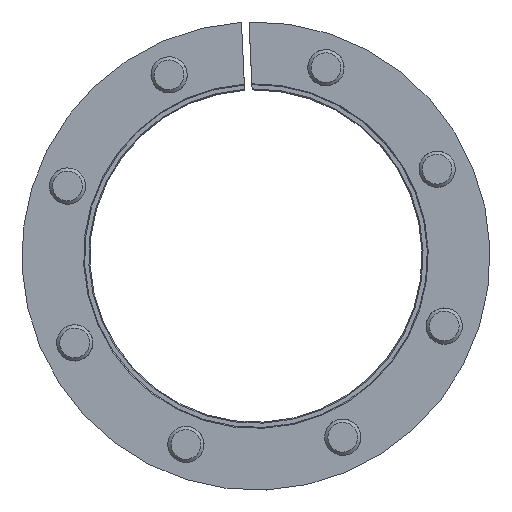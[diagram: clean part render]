
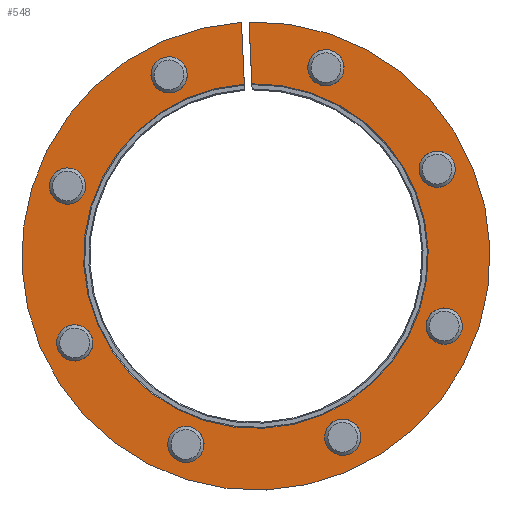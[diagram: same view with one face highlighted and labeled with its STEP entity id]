
A CAD part, left-side view. The second image highlights one B-rep face of the part: STEP entity #548.
In plain terms, the highlighted planar face has unit normal (-1, 0, 0) as drawn and (1, 0, 0) by its records, which use the part's own axes.
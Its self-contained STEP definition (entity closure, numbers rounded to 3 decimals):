
#123=CARTESIAN_POINT('',(26.,51.516,55.214));
#124=VERTEX_POINT('',#123);
#125=CARTESIAN_POINT('',(26.,51.516,61.214));
#126=DIRECTION('',(-1.0,0.0,0.0));
#127=DIRECTION('',(0.0,0.0,1.0));
#128=AXIS2_PLACEMENT_3D('',#125,#126,#127);
#129=CIRCLE('',#128,6.);
#130=EDGE_CURVE('',#124,#124,#129,.T.);
#151=CARTESIAN_POINT('',(26.,16.286,-31.984));
#152=VERTEX_POINT('',#151);
#153=CARTESIAN_POINT('',(26.,16.286,-25.984));
#154=DIRECTION('',(-1.0,0.0,0.0));
#155=DIRECTION('',(0.0,0.0,1.0));
#156=AXIS2_PLACEMENT_3D('',#153,#154,#155);
#157=CIRCLE('',#156,6.);
#158=EDGE_CURVE('',#152,#152,#157,.T.);
#179=CARTESIAN_POINT('',(26.,103.484,-67.214));
#180=VERTEX_POINT('',#179);
#181=CARTESIAN_POINT('',(26.,103.484,-61.214));
#182=DIRECTION('',(-1.0,0.0,0.0));
#183=DIRECTION('',(0.0,0.0,1.0));
#184=AXIS2_PLACEMENT_3D('',#181,#182,#183);
#185=CIRCLE('',#184,6.);
#186=EDGE_CURVE('',#180,#180,#185,.T.);
#207=CARTESIAN_POINT('',(26.,138.714,19.984));
#208=VERTEX_POINT('',#207);
#209=CARTESIAN_POINT('',(26.,138.714,25.984));
#210=DIRECTION('',(-1.0,0.0,0.0));
#211=DIRECTION('',(0.0,0.0,1.0));
#212=AXIS2_PLACEMENT_3D('',#209,#210,#211);
#213=CIRCLE('',#212,6.);
#214=EDGE_CURVE('',#208,#208,#213,.T.);
#224=CARTESIAN_POINT('',(26.,76.25,77.49));
#225=VERTEX_POINT('',#224);
#234=CARTESIAN_POINT('',(26.,76.25,57.031));
#235=VERTEX_POINT('',#234);
#236=CARTESIAN_POINT('',(26.,76.25,57.031));
#237=DIRECTION('',(0.0,0.0,1.0));
#238=VECTOR('',#237,20.459);
#239=LINE('',#236,#238);
#240=EDGE_CURVE('',#235,#225,#239,.T.);
#290=CARTESIAN_POINT('',(26.,78.75,77.49));
#291=VERTEX_POINT('',#290);
#330=CARTESIAN_POINT('',(26.,78.75,57.031));
#331=VERTEX_POINT('',#330);
#338=CARTESIAN_POINT('',(26.,78.75,77.49));
#339=DIRECTION('',(0.0,0.0,-1.0));
#340=VECTOR('',#339,20.459);
#341=LINE('',#338,#340);
#342=EDGE_CURVE('',#291,#331,#341,.T.);
#363=CARTESIAN_POINT('',(26.,103.484,55.214));
#364=VERTEX_POINT('',#363);
#365=CARTESIAN_POINT('',(26.,103.484,61.214));
#366=DIRECTION('',(-1.0,0.0,0.0));
#367=DIRECTION('',(0.0,0.0,1.0));
#368=AXIS2_PLACEMENT_3D('',#365,#366,#367);
#369=CIRCLE('',#368,6.);
#370=EDGE_CURVE('',#364,#364,#369,.T.);
#391=CARTESIAN_POINT('',(26.,138.714,-31.984));
#392=VERTEX_POINT('',#391);
#393=CARTESIAN_POINT('',(26.,138.714,-25.984));
#394=DIRECTION('',(-1.0,0.0,0.0));
#395=DIRECTION('',(0.0,0.0,1.0));
#396=AXIS2_PLACEMENT_3D('',#393,#394,#395);
#397=CIRCLE('',#396,6.0);
#398=EDGE_CURVE('',#392,#392,#397,.T.);
#419=CARTESIAN_POINT('',(26.,51.516,-67.214));
#420=VERTEX_POINT('',#419);
#421=CARTESIAN_POINT('',(26.,51.516,-61.214));
#422=DIRECTION('',(-1.0,0.0,0.0));
#423=DIRECTION('',(0.0,0.0,1.0));
#424=AXIS2_PLACEMENT_3D('',#421,#422,#423);
#425=CIRCLE('',#424,6.);
#426=EDGE_CURVE('',#420,#420,#425,.T.);
#447=CARTESIAN_POINT('',(26.,16.286,19.984));
#448=VERTEX_POINT('',#447);
#449=CARTESIAN_POINT('',(26.,16.286,25.984));
#450=DIRECTION('',(-1.0,0.0,0.0));
#451=DIRECTION('',(0.0,0.0,1.0));
#452=AXIS2_PLACEMENT_3D('',#449,#450,#451);
#453=CIRCLE('',#452,6.);
#454=EDGE_CURVE('',#448,#448,#453,.T.);
#465=CARTESIAN_POINT('',(26.,77.5,0.0));
#466=DIRECTION('',(-1.0,0.0,0.0));
#467=DIRECTION('',(0.0,-1.0,0.0));
#468=AXIS2_PLACEMENT_3D('',#465,#466,#467);
#469=CIRCLE('',#468,77.5);
#470=EDGE_CURVE('',#291,#225,#469,.T.);
#507=CARTESIAN_POINT('',(26.,10.227,0.0));
#508=DIRECTION('',(1.0,0.0,0.0));
#509=DIRECTION('',(0.0,0.0,-1.0));
#510=AXIS2_PLACEMENT_3D('',#507,#508,#509);
#511=PLANE('',#510);
#512=ORIENTED_EDGE('',*,*,#342,.T.);
#513=CARTESIAN_POINT('',(26.,77.5,0.0));
#514=DIRECTION('',(-1.0,0.0,0.0));
#515=DIRECTION('',(0.0,-1.0,0.0));
#516=AXIS2_PLACEMENT_3D('',#513,#514,#515);
#517=CIRCLE('',#516,57.045);
#518=EDGE_CURVE('',#331,#235,#517,.T.);
#519=ORIENTED_EDGE('',*,*,#518,.T.);
#520=ORIENTED_EDGE('',*,*,#240,.T.);
#521=ORIENTED_EDGE('',*,*,#470,.F.);
#522=EDGE_LOOP('',(#512,#519,#520,#521));
#523=FACE_OUTER_BOUND('',#522,.T.);
#524=ORIENTED_EDGE('',*,*,#454,.T.);
#525=EDGE_LOOP('',(#524));
#526=FACE_BOUND('',#525,.T.);
#527=ORIENTED_EDGE('',*,*,#426,.T.);
#528=EDGE_LOOP('',(#527));
#529=FACE_BOUND('',#528,.T.);
#530=ORIENTED_EDGE('',*,*,#398,.T.);
#531=EDGE_LOOP('',(#530));
#532=FACE_BOUND('',#531,.T.);
#533=ORIENTED_EDGE('',*,*,#370,.T.);
#534=EDGE_LOOP('',(#533));
#535=FACE_BOUND('',#534,.T.);
#536=ORIENTED_EDGE('',*,*,#214,.T.);
#537=EDGE_LOOP('',(#536));
#538=FACE_BOUND('',#537,.T.);
#539=ORIENTED_EDGE('',*,*,#186,.T.);
#540=EDGE_LOOP('',(#539));
#541=FACE_BOUND('',#540,.T.);
#542=ORIENTED_EDGE('',*,*,#158,.T.);
#543=EDGE_LOOP('',(#542));
#544=FACE_BOUND('',#543,.T.);
#545=ORIENTED_EDGE('',*,*,#130,.T.);
#546=EDGE_LOOP('',(#545));
#547=FACE_BOUND('',#546,.T.);
#548=ADVANCED_FACE('',(#523,#526,#529,#532,#535,#538,#541,#544,#547),#511,.T.);
